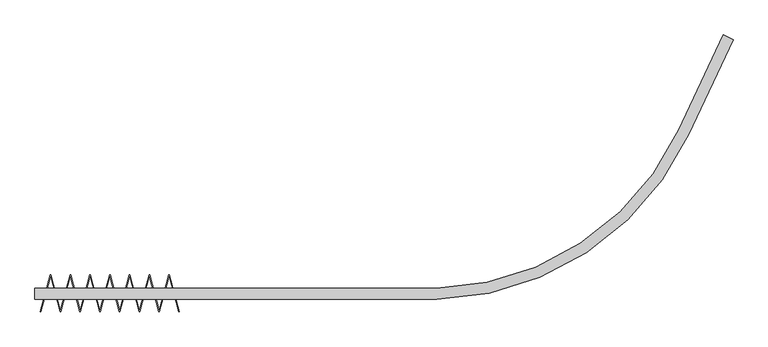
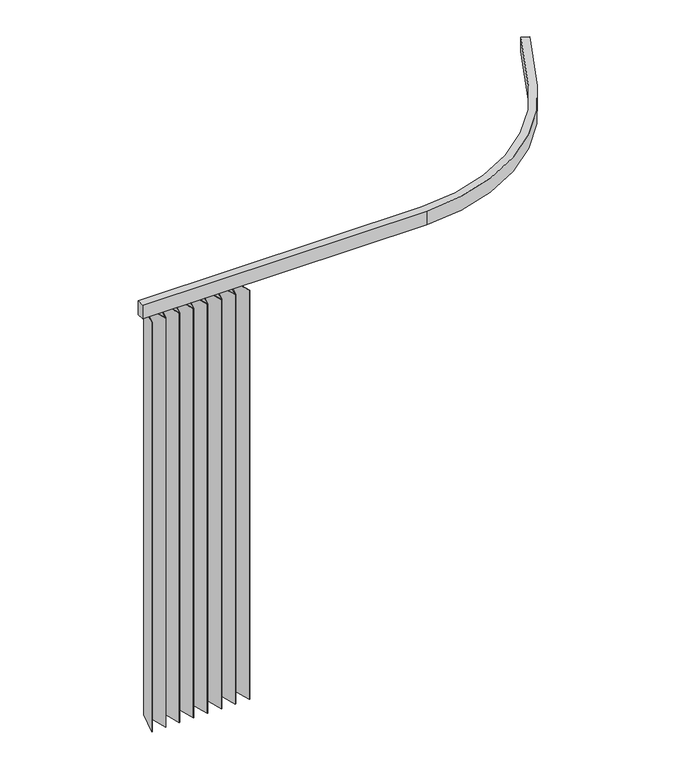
"""IFC4 building model written with IfcOpenShell, lengths in millimetres: furniture geometry, BIMHealth-Curtain_Birthing-LOD2A-v1 : BIMHealth-Curtain_Birthing-LOD2A-v1."""

from ifc_helpers import new_model, si_unit, point, frame, frame_2d, origin, place, context, project, spatial, polyline, circle_curve, trimmed, segment, composite_curve, outline, extrude, source, transform, mapped, element, save


def furniture_b70b2f27(model_context):
    return source(origin(), model_context, "Body", "SweptSolid", [
        extrude(outline(composite_curve([segment(trimmed(circle_curve(frame_2d((1435.4135487, 1037.1412058)), 997.4442731), [point((1460.0, 40.0))], [point((2339.4050605, 615.6030409))], True, "CARTESIAN"), True, "CONTINUOUS"), segment(polyline([(2339.4050605, 615.6030409), (2500.0, 960.0), (2536.2523115, 943.0952695), (2375.657372, 598.6983105)]), True, "CONTINUOUS"), segment(trimmed(circle_curve(frame_2d((1435.4135487, 1037.1412058)), 1037.4442731), [point((2375.657372, 598.6983105))], [point((1460.4882166, 0.0))], False, "CARTESIAN"), True, "CONTINUOUS"), segment(polyline([(1460.4882166, 0.0), (0.0, 0.0), (0.0, 40.0), (1460.0, 40.0)]), True, "CONTINUOUS")], self_intersect=False)), frame((0.0, 0.0, 2325.0), z_axis=(0.0, 0.0, 1.0), x_axis=(1.0, 0.0, 0.0)), (0.0, 0.0, 1.0), 75.0),
        extrude(outline(polyline([(55.8630189, 88.8426086), (57.9335712, 88.8426086), (92.761314, -41.1362967), (127.5890567, 88.8426086), (129.659609, 88.8426086), (164.4873517, -41.1362967), (199.3150944, 88.8426086), (201.3856468, 88.8426086), (236.2133895, -41.1362967), (271.0411322, 88.8426086), (273.1116846, 88.8426086), (307.9394273, -41.1362967), (342.76717, 88.8426086), (344.8377223, 88.8426086), (379.665465, -41.1362967), (414.4932078, 88.8426086), (416.5637601, 88.8426086), (451.3915028, -41.1362967), (486.2192455, 88.8426086), (488.2897979, 88.8426086), (524.1528168, -45.0), (522.2209651, -45.5176381), (487.2545217, 84.9789053), (452.426779, -45.0), (450.3562266, -45.0), (415.5284839, 84.9789053), (380.7007412, -45.0), (378.6301889, -45.0), (343.8024462, 84.9789053), (308.9747035, -45.0), (306.9041511, -45.0), (272.0764084, 84.9789053), (237.2486657, -45.0), (235.1781133, -45.0), (200.3503706, 84.9789053), (165.5226279, -45.0), (163.4520755, -45.0), (128.6243328, 84.9789053), (93.7965901, -45.0), (91.7260378, -45.0), (56.8982951, 84.9789053), (21.9318517, -45.5176381), (20.0, -45.0), (55.8630189, 88.8426086)])), frame((0.0, 0.0, 100.0), z_axis=(0.0, 0.0, 1.0), x_axis=(1.0, 0.0, 0.0)), (0.0, 0.0, 1.0), 2225.0),
    ])


if __name__ == "__main__":
    model = new_model("IFC4")
    model_context = context("Model", 3, world=origin())
    ifc_project = project(units=[si_unit("LENGTHUNIT", "METRE", prefix="MILLI")], contexts=[model_context])
    site = spatial("IfcSite", under=ifc_project)
    building = spatial("IfcBuilding", under=site)
    placement = place(None, origin())
    furniture_shape = furniture_b70b2f27(model_context)
    element("IfcFurniture", 1, ObjectType="BIMHealth-Curtain_Birthing-LOD2A-v1 : BIMHealth-Curtain_Birthing-LOD2A-v1", at=placement, inside=building, context=model_context, shape_type="MappedRepresentation", body=[
        mapped(furniture_shape, transform((0.0, 0.0, 0.0), x_axis=(1.0, 0.0, 0.0), y_axis=(0.0, 1.0, 0.0), z_axis=(0.0, 0.0, 1.0))),
    ])
    save(model, "model.ifc")
